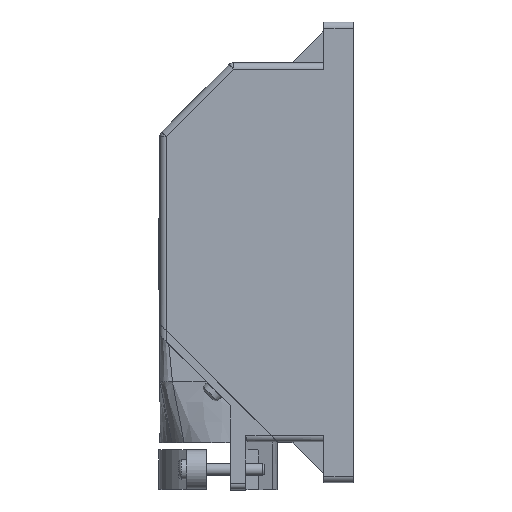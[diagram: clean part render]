
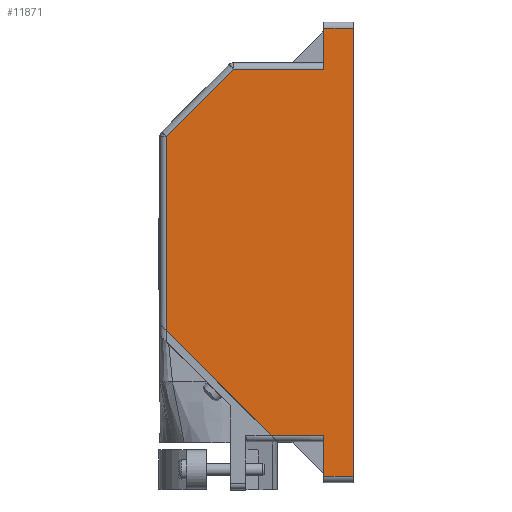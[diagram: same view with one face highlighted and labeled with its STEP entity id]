
A CAD part, top view. The second image highlights one B-rep face of the part: STEP entity #11871.
In plain terms, the highlighted planar face has unit normal (0, 0, 1).
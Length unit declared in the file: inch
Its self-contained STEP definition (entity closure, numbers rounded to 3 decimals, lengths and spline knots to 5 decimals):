
#1334=FACE_OUTER_BOUND($,#2073,.T.);
#2073=EDGE_LOOP($,(#10015,#10016,#10017,#10018,#10019,#10020,#10021,#10022,
#10023,#10024));
#3136=LINE($,#19177,#4344);
#3138=LINE($,#19184,#4346);
#3152=LINE($,#19261,#4360);
#3158=LINE($,#19277,#4366);
#3160=LINE($,#19305,#4368);
#3162=LINE($,#19320,#4370);
#3163=LINE($,#19323,#4371);
#3174=LINE($,#19353,#4382);
#3186=LINE($,#19378,#4394);
#3212=LINE($,#19448,#4420);
#4344=VECTOR($,#14950,0.4035);
#4346=VECTOR($,#14958,0.29);
#4360=VECTOR($,#14996,1.47078);
#4366=VECTOR($,#15014,0.5225);
#4368=VECTOR($,#15052,0.89411);
#4370=VECTOR($,#15058,0.94524);
#4371=VECTOR($,#15063,1.92161);
#4382=VECTOR($,#15096,0.29);
#4394=VECTOR($,#15114,4.437);
#4420=VECTOR($,#15196,0.4035);
#5461=VERTEX_POINT($,#19174);
#5462=VERTEX_POINT($,#19176);
#5464=VERTEX_POINT($,#19182);
#5484=VERTEX_POINT($,#19258);
#5485=VERTEX_POINT($,#19260);
#5493=VERTEX_POINT($,#19290);
#5494=VERTEX_POINT($,#19295);
#5496=VERTEX_POINT($,#19301);
#5503=VERTEX_POINT($,#19346);
#5506=VERTEX_POINT($,#19351);
#6933=EDGE_CURVE($,#5461,#5462,#3136,.T.);
#6937=EDGE_CURVE($,#5464,#5461,#3138,.T.);
#6961=EDGE_CURVE($,#5484,#5485,#3152,.T.);
#6971=EDGE_CURVE($,#5462,#5484,#3158,.T.);
#6986=EDGE_CURVE($,#5494,#5496,#3160,.T.);
#6989=EDGE_CURVE($,#5493,#5494,#3162,.T.);
#6990=EDGE_CURVE($,#5485,#5493,#3163,.T.);
#7004=EDGE_CURVE($,#5506,#5503,#3174,.T.);
#7017=EDGE_CURVE($,#5503,#5464,#3186,.T.);
#7051=EDGE_CURVE($,#5496,#5506,#3212,.T.);
#10015=ORIENTED_EDGE($,*,*,#6937,.F.);
#10016=ORIENTED_EDGE($,*,*,#7017,.F.);
#10017=ORIENTED_EDGE($,*,*,#7004,.F.);
#10018=ORIENTED_EDGE($,*,*,#7051,.F.);
#10019=ORIENTED_EDGE($,*,*,#6986,.F.);
#10020=ORIENTED_EDGE($,*,*,#6989,.F.);
#10021=ORIENTED_EDGE($,*,*,#6990,.F.);
#10022=ORIENTED_EDGE($,*,*,#6961,.F.);
#10023=ORIENTED_EDGE($,*,*,#6971,.F.);
#10024=ORIENTED_EDGE($,*,*,#6933,.F.);
#11065=PLANE($,#12718);
#11871=ADVANCED_FACE($,(#1334),#11065,.T.);
#12718=AXIS2_PLACEMENT_3D($,#19503,#15278,#15279);
#14950=DIRECTION($,(0.,1.,0.));
#14958=DIRECTION($,(-1.,0.,0.));
#14996=DIRECTION($,(-0.707,0.707,0.));
#15014=DIRECTION($,(-1.,0.,0.));
#15052=DIRECTION($,(1.,0.,0.));
#15058=DIRECTION($,(0.707,0.707,0.));
#15063=DIRECTION($,(0.,1.,0.));
#15096=DIRECTION($,(1.,0.,0.));
#15114=DIRECTION($,(0.,-1.,0.));
#15196=DIRECTION($,(0.,1.,0.));
#15278=DIRECTION('center_axis',(0.,0.,1.));
#15279=DIRECTION('ref_axis',(1.,0.,0.));
#19174=CARTESIAN_POINT('',(-0.29,0.0625,0.8425));
#19176=CARTESIAN_POINT('',(-0.29,0.466,0.8425));
#19177=CARTESIAN_POINT($,(-0.29,1.16934,0.8425));
#19182=CARTESIAN_POINT('',(0.,0.0625,0.8425));
#19184=CARTESIAN_POINT($,(-0.36304,0.0625,0.8425));
#19258=CARTESIAN_POINT('',(-0.8125,0.466,0.8425));
#19260=CARTESIAN_POINT('',(-1.8525,1.506,0.8425));
#19261=CARTESIAN_POINT($,(-0.75,0.4035,0.8425));
#19277=CARTESIAN_POINT($,(-0.50804,0.466,0.8425));
#19290=CARTESIAN_POINT('',(-1.8525,3.42761,0.8425));
#19295=CARTESIAN_POINT('',(-1.18411,4.096,0.8425));
#19301=CARTESIAN_POINT('',(-0.29,4.096,0.8425));
#19305=CARTESIAN_POINT($,(-0.96804,4.096,0.8425));
#19320=CARTESIAN_POINT($,(-1.85228,3.42783,0.8425));
#19323=CARTESIAN_POINT($,(-1.8525,1.95359,0.8425));
#19346=CARTESIAN_POINT('',(0.,4.4995,0.8425));
#19351=CARTESIAN_POINT('',(-0.29,4.4995,0.8425));
#19353=CARTESIAN_POINT($,(-0.50804,4.4995,0.8425));
#19378=CARTESIAN_POINT($,(0.,4.562,0.8425));
#19448=CARTESIAN_POINT($,(-0.29,4.1585,0.8425));
#19503=CARTESIAN_POINT('Origin',(-0.72608,2.33869,0.8425));
